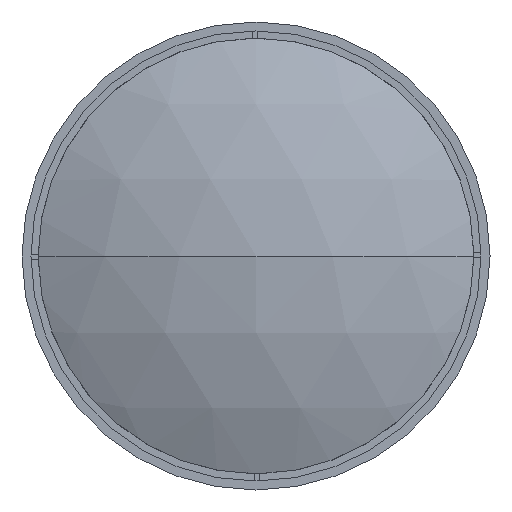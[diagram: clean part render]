
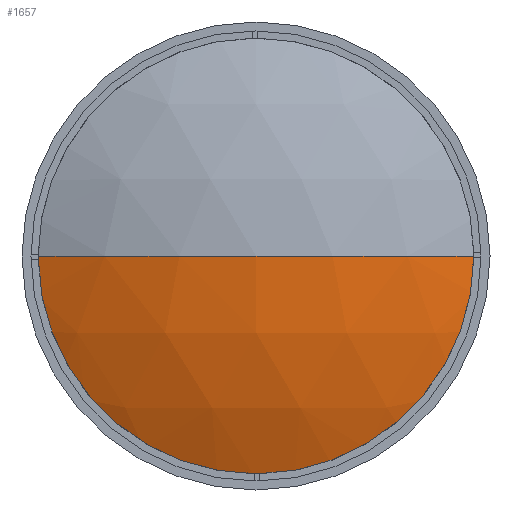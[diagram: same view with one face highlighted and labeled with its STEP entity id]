
A CAD part, left-side view. The second image highlights one B-rep face of the part: STEP entity #1657.
In plain terms, the highlighted spherical face has radius 144.52 mm.
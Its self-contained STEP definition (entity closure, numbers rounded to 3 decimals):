
#1365 = VERTEX_POINT ( 'NONE', #5623 ) ;
#1379 = DIRECTION ( 'NONE',  ( -1., 0., 0. ) ) ;
#1657 = ADVANCED_FACE ( 'NONE', ( #9298 ), #12948, .T. ) ;
#1848 = ORIENTED_EDGE ( 'NONE', *, *, #13267, .T. ) ;
#4139 = CARTESIAN_POINT ( 'NONE',  ( 13.975, 62., 0. ) ) ;
#4163 = CIRCLE ( 'NONE', #4310, 144.52 ) ;
#4296 = ORIENTED_EDGE ( 'NONE', *, *, #13868, .F. ) ;
#4310 = AXIS2_PLACEMENT_3D ( 'NONE', #7303, #15908, #8502 ) ;
#4618 = AXIS2_PLACEMENT_3D ( 'NONE', #13336, #6017, #14641 ) ;
#5623 = CARTESIAN_POINT ( 'NONE',  ( 13.975, -62., 0. ) ) ;
#6017 = DIRECTION ( 'NONE',  ( 0., 0., -1. ) ) ;
#7303 = CARTESIAN_POINT ( 'NONE',  ( 144.52, 0., 0. ) ) ;
#7569 = DIRECTION ( 'NONE',  ( 0., 0., -1. ) ) ;
#8502 = DIRECTION ( 'NONE',  ( 1., 0., 0. ) ) ;
#8687 = CIRCLE ( 'NONE', #4618, 144.52 ) ;
#8978 = CARTESIAN_POINT ( 'NONE',  ( 13.975, 0., 0. ) ) ;
#9137 = AXIS2_PLACEMENT_3D ( 'NONE', #8978, #1379, #10176 ) ;
#9298 = FACE_OUTER_BOUND ( 'NONE', #15088, .T. ) ;
#9570 = AXIS2_PLACEMENT_3D ( 'NONE', #14826, #7569, #12269 ) ;
#10176 = DIRECTION ( 'NONE',  ( 0., 0., 1. ) ) ;
#10670 = CARTESIAN_POINT ( 'NONE',  ( 0., 0., 0. ) ) ;
#10981 = VERTEX_POINT ( 'NONE', #10670 ) ;
#12269 = DIRECTION ( 'NONE',  ( 0., 1., 0. ) ) ;
#12601 = ORIENTED_EDGE ( 'NONE', *, *, #14016, .T. ) ;
#12948 = SPHERICAL_SURFACE ( 'NONE', #9570, 144.52 ) ;
#13207 = VERTEX_POINT ( 'NONE', #4139 ) ;
#13267 = EDGE_CURVE ( 'NONE', #1365, #10981, #8687, .T. ) ;
#13336 = CARTESIAN_POINT ( 'NONE',  ( 144.52, 0., 0. ) ) ;
#13868 = EDGE_CURVE ( 'NONE', #13207, #10981, #4163, .T. ) ;
#14016 = EDGE_CURVE ( 'NONE', #13207, #1365, #15463, .T. ) ;
#14641 = DIRECTION ( 'NONE',  ( 0., 1., 0. ) ) ;
#14826 = CARTESIAN_POINT ( 'NONE',  ( 144.52, 0., 0. ) ) ;
#15088 = EDGE_LOOP ( 'NONE', ( #12601, #1848, #4296 ) ) ;
#15463 = CIRCLE ( 'NONE', #9137, 62. ) ;
#15908 = DIRECTION ( 'NONE',  ( 0., 0., 1. ) ) ;
